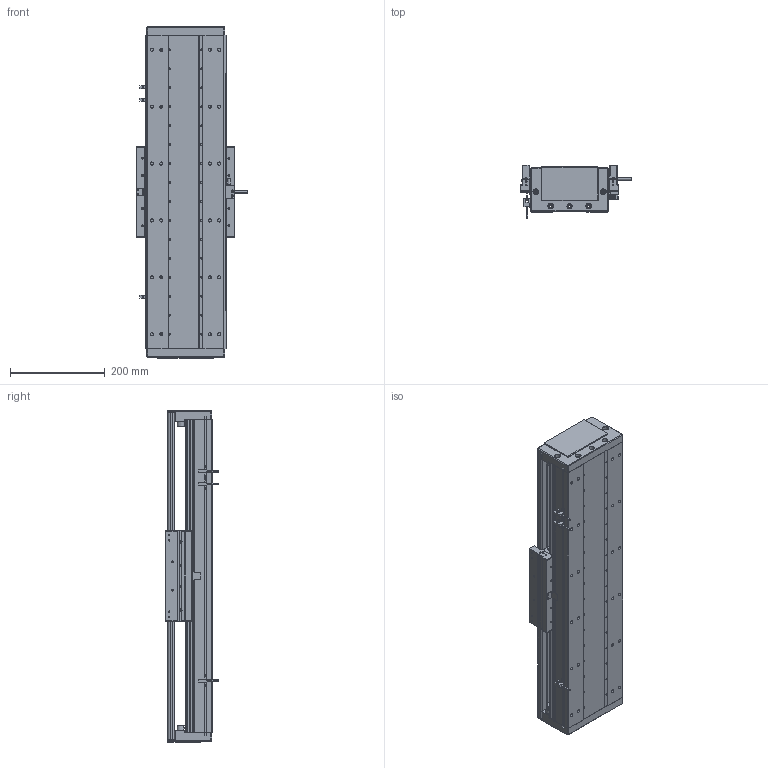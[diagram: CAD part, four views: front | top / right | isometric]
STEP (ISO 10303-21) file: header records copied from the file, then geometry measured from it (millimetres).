
FILE_DESCRIPTION (( 'STEP AP203' ), '1' );
FILE_NAME ('DA-C165-C2-T420-C010-0.2 直线电机.STEP', '2023-05-11T07:29:15', ( '微软用户' ), ( '微软中国' ), 'SwSTEP 2.0', 'SolidWorks 2019', '' );
FILE_SCHEMA (( 'CONFIG_CONTROL_DESIGN' ));
Length unit declared in the file: millimetre
Products named in the file (15): 珨极趙賑雄怢啣wf-C2; 复件 DA165-T-002-00 盖板^DA-C165-C2-T-C010-0.2-N 直线电机_0840-002-00; 复件 DA165-DG-H-N-00 端盖^DA-C165-C2-T-C010-0.2-N 直线电机; IU-CU165-L 菁釱絳寢; 葩璃 CKM01-W075-TRL^DA-C165-C2-T-C010-0.2-N 眻盄萇儂; IU-CU165-L-00 菁釱_L660; DA-C165-C2-T420-C010-0.2 眻盄萇儂; 复件 六角薄螺母 M3^DA-C165-C2-T-C010-0.2-N 直线电机_GB_FASTENER_NUT_STNAB M3-C; 葩璃 DA95-GT-T-00^IU-CU165-L 菁釱絳寢_T; 复件 DMA-010-0.2 读数头^DA-C165-C2-T-C010-0.2-N 直线电机; 复件 DA165-GYP-00 光电感应片^DA-C165-C2-T-C010-0.2-N 直线电机; 葩璃 PM-T45^DA-C165-C2-T-C010-0.2-N 眻盄萇儂; 复件 XD-U-02L 磁栅尺^DA-C165-C2-T-C010-0.2-N 直线电机_T; 复件 DA95-HXJ-00 缓冲橡胶^DA-C165-C2-T-C010-0.2-N 直线电机; 复件 CKM02-W075-C1C2-TP-3.0 一体电机-C2^DA-C165-C2-T-C010-0.2-N 直线电机
Assembly tree (28 placements, depth 3):
  DA-C165-C2-T420-C010-0.2 眻盄萇儂
    IU-CU165-L 菁釱絳寢
      IU-CU165-L-00 菁釱_L660
      葩璃 DA95-GT-T-00^IU-CU165-L 菁釱絳寢_T  x4
    复件 DA165-DG-H-N-00 端盖^DA-C165-C2-T-C010-0.2-N 直线电机  x2
    复件 DA95-HXJ-00 缓冲橡胶^DA-C165-C2-T-C010-0.2-N 直线电机  x4
    复件 DA165-T-002-00 盖板^DA-C165-C2-T-C010-0.2-N 直线电机_0840-002-00
    复件 XD-U-02L 磁栅尺^DA-C165-C2-T-C010-0.2-N 直线电机_T
    葩璃 PM-T45^DA-C165-C2-T-C010-0.2-N 眻盄萇儂  x3
    葩璃 CKM01-W075-TRL^DA-C165-C2-T-C010-0.2-N 眻盄萇儂
    复件 DA165-GYP-00 光电感应片^DA-C165-C2-T-C010-0.2-N 直线电机
    复件 DMA-010-0.2 读数头^DA-C165-C2-T-C010-0.2-N 直线电机
    复件 CKM02-W075-C1C2-TP-3.0 一体电机-C2^DA-C165-C2-T-C010-0.2-N 直线电机
    复件 六角薄螺母 M3^DA-C165-C2-T-C010-0.2-N 直线电机_GB_FASTENER_NUT_STNAB M3-C  x6
    珨极趙賑雄怢啣wf-C2
Bounding box: 233 x 111.45 x 700 mm (x, y, z)
Volume: 5795933.6 mm3; surface area: 1512242.5 mm2
Topology: 66 solids, 66 shells, 2904 faces, 7792 edges, 4863 vertices
Faces by surface type: cylinder 1391, plane 1049, cone 406, torus 54, sphere 4
Entity records: 84017 total; most frequent: CARTESIAN_POINT 18506, DIRECTION 13594, ORIENTED_EDGE 13058, EDGE_CURVE 6529, AXIS2_PLACEMENT_3D 5077, VERTEX_POINT 4199, LINE 3440, VECTOR 3440
